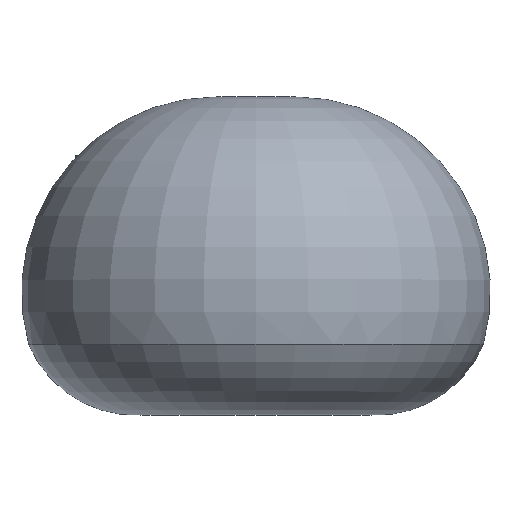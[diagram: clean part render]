
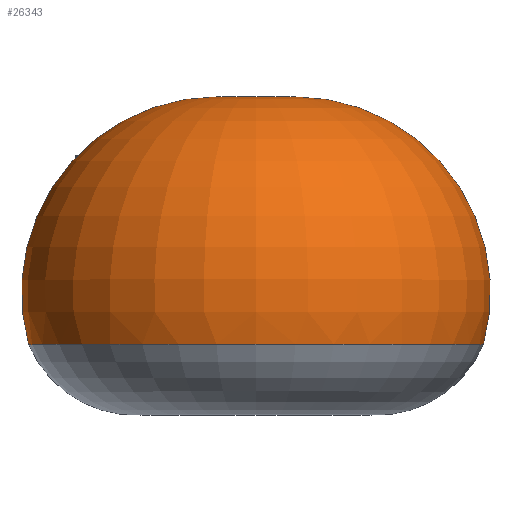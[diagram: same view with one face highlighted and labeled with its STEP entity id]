
A CAD part, top view. The second image highlights one B-rep face of the part: STEP entity #26343.
In plain terms, the highlighted toroidal (fillet/blend) face has major radius 400 mm and minor radius 2017.4 mm.
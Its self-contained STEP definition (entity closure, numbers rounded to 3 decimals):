
#26126 = VERTEX_POINT ( 'NONE', #105751 ) ;
#26136 = VERTEX_POINT ( 'NONE', #105747 ) ;
#26145 = ORIENTED_EDGE ( 'NONE', *, *, #26153, .T. ) ;
#26153 = EDGE_CURVE ( 'NONE', #26136, #26574, #105792, .T. ) ;
#26163 = ORIENTED_EDGE ( 'NONE', *, *, #26556, .F. ) ;
#26173 = ORIENTED_EDGE ( 'NONE', *, *, #26176, .F. ) ;
#26176 = EDGE_CURVE ( 'NONE', #26126, #26566, #105860, .T. ) ;
#26343 = ADVANCED_FACE ( 'NONE', ( #106247 ), #106242, .T. ) ;
#26347 = EDGE_LOOP ( 'NONE', ( #26358, #26145, #26163, #26173 ) ) ;
#26358 = ORIENTED_EDGE ( 'NONE', *, *, #26368, .T. ) ;
#26368 = EDGE_CURVE ( 'NONE', #26126, #26136, #106307, .T. ) ;
#26556 = EDGE_CURVE ( 'NONE', #26566, #26574, #106945, .T. ) ;
#26566 = VERTEX_POINT ( 'NONE', #106977 ) ;
#26574 = VERTEX_POINT ( 'NONE', #107087 ) ;
#105747 = CARTESIAN_POINT ( 'NONE',  ( -65.381, 2819.452, 0. ) ) ;
#105751 = CARTESIAN_POINT ( 'NONE',  ( 65.381, 2819.452, 0. ) ) ;
#105786 = DIRECTION ( 'NONE',  ( 1., 0., 0. ) ) ;
#105787 = DIRECTION ( 'NONE',  ( 0., 0., 1. ) ) ;
#105789 = CARTESIAN_POINT ( 'NONE',  ( -400., 830., 0. ) ) ;
#105791 = AXIS2_PLACEMENT_3D ( 'NONE', #105789, #105787, #105786 ) ;
#105792 = CIRCLE ( 'NONE', #105791, 2017.396 ) ;
#105854 = DIRECTION ( 'NONE',  ( -1., 0., 0. ) ) ;
#105856 = DIRECTION ( 'NONE',  ( 0., 0., -1. ) ) ;
#105857 = CARTESIAN_POINT ( 'NONE',  ( 400., 830., 0. ) ) ;
#105859 = AXIS2_PLACEMENT_3D ( 'NONE', #105857, #105856, #105854 ) ;
#105860 = CIRCLE ( 'NONE', #105859, 2017.396 ) ;
#106237 = DIRECTION ( 'NONE',  ( 1., 0., 0. ) ) ;
#106239 = DIRECTION ( 'NONE',  ( 0., -1., 0. ) ) ;
#106240 = AXIS2_PLACEMENT_3D ( 'NONE', #106245, #106239, #106237 ) ;
#106242 = TOROIDAL_SURFACE ( 'NONE', #106240, 400., 2017.396 ) ;
#106245 = CARTESIAN_POINT ( 'NONE',  ( 0., 830., 0. ) ) ;
#106247 = FACE_OUTER_BOUND ( 'NONE', #26347, .T. ) ;
#106302 = DIRECTION ( 'NONE',  ( 1., 0., 0. ) ) ;
#106304 = DIRECTION ( 'NONE',  ( 0., -1., 0. ) ) ;
#106305 = CARTESIAN_POINT ( 'NONE',  ( 0., 2819.452, 0. ) ) ;
#106306 = AXIS2_PLACEMENT_3D ( 'NONE', #106305, #106304, #106302 ) ;
#106307 = CIRCLE ( 'NONE', #106306, 65.381 ) ;
#106940 = DIRECTION ( 'NONE',  ( 1., 0., 0. ) ) ;
#106941 = DIRECTION ( 'NONE',  ( 0., -1., 0. ) ) ;
#106942 = CARTESIAN_POINT ( 'NONE',  ( 0., 292.489, 0. ) ) ;
#106944 = AXIS2_PLACEMENT_3D ( 'NONE', #106942, #106941, #106940 ) ;
#106945 = CIRCLE ( 'NONE', #106944, 2344.472 ) ;
#106977 = CARTESIAN_POINT ( 'NONE',  ( 2344.472, 292.489, 0. ) ) ;
#107087 = CARTESIAN_POINT ( 'NONE',  ( -2344.472, 292.489, 0. ) ) ;
